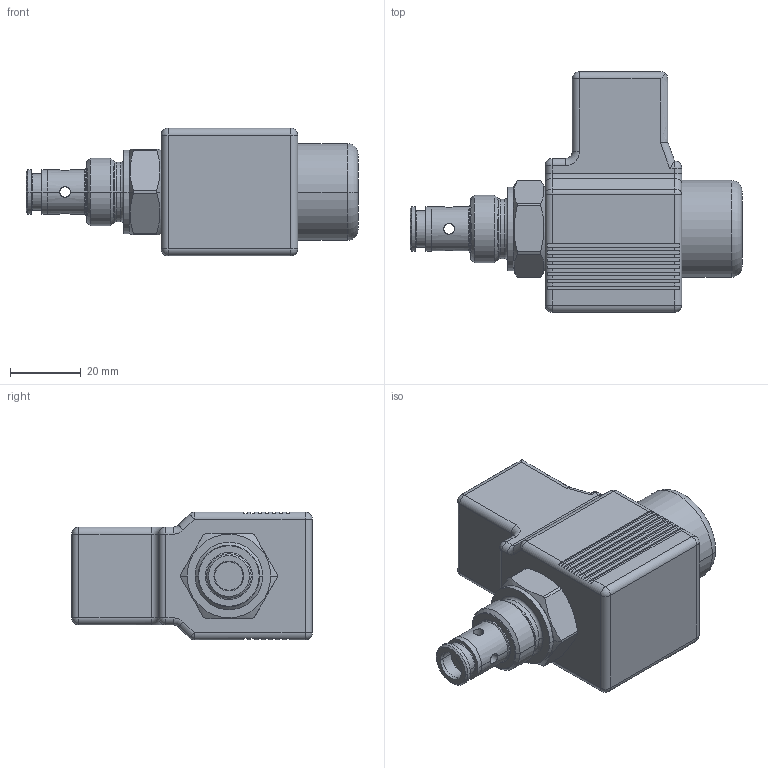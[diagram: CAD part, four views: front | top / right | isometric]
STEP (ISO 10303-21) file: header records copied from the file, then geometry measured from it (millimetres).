
FILE_DESCRIPTION((''),'2;1');
FILE_NAME('SD2E_A2_S','2011-03-14T',('tvatras'),(''),'PRO/ENGINEER BY PARAMETRIC TECHNOLOGY CORPORATION, 2010180','PRO/ENGINEER BY PARAMETRIC TECHNOLOGY CORPORATION, 2010180','');
FILE_SCHEMA(('CONFIG_CONTROL_DESIGN'));
Length unit declared in the file: millimetre
Products named in the file (1): SD2E_A2_S
Bounding box: 93.55 x 67.8 x 36 mm (x, y, z)
Volume: 88256.8 mm3; surface area: 18146 mm2
Topology: 1 solids, 3 shells, 213 faces, 536 edges, 320 vertices
Faces by surface type: plane 88, cylinder 77, cone 16, torus 16, sphere 14, extrusion 2
Entity records: 6584 total; most frequent: CARTESIAN_POINT 1388, DIRECTION 1156, ORIENTED_EDGE 1038, EDGE_CURVE 521, AXIS2_PLACEMENT_3D 451, VERTEX_POINT 318, VECTOR 254, LINE 252
